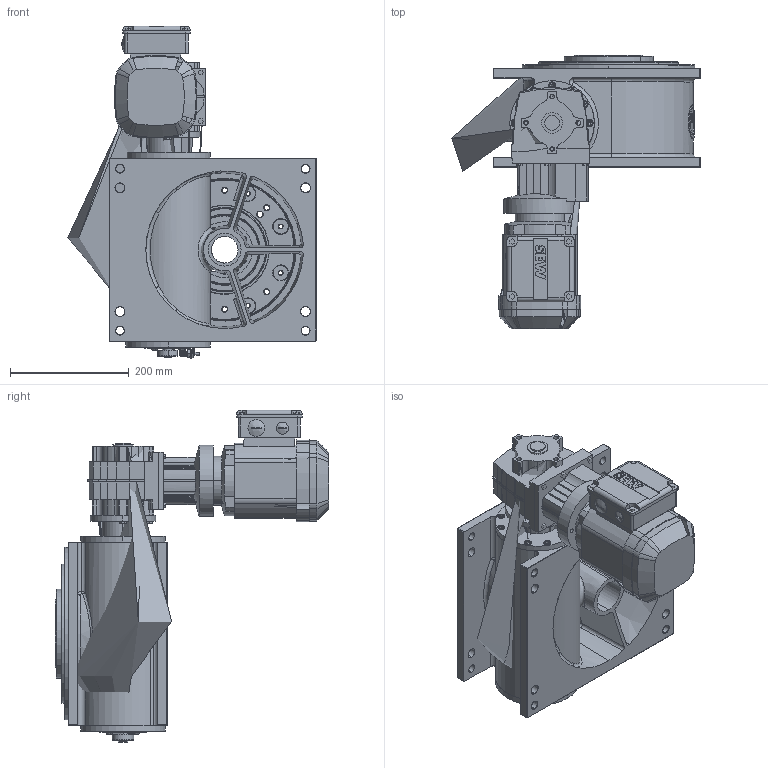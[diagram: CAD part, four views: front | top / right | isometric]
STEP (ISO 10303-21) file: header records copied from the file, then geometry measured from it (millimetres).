
FILE_DESCRIPTION (( 'STEP AP214' ), '1' );
FILE_NAME ('M235_SEW_WA37.STEP', '2020-06-17T05:45:22', ( '' ), ( '' ), 'SwSTEP 2.0', 'SolidWorks 2020', '' );
FILE_SCHEMA (( 'AUTOMOTIVE_DESIGN' ));
Length unit declared in the file: millimetre
Products named in the file (1): M235_SEW_WA37
Bounding box: 417.72 x 460 x 558 mm (x, y, z)
Surface area: 1042301.2 mm2 (no closed solid volume)
Topology: 0 solids, 86 shells, 1580 faces, 4722 edges, 3155 vertices
Faces by surface type: plane 633, cylinder 495, cone 258, bspline 103, torus 75, sphere 16
Entity records: 80342 total; most frequent: CARTESIAN_POINT 21042, DIRECTION 8849, ORIENTED_EDGE 8068, EDGE_CURVE 4702, AXIS2_PLACEMENT_3D 3196, VERTEX_POINT 3162, VECTOR 2457, LINE 2457
